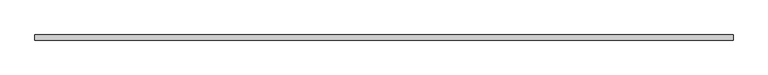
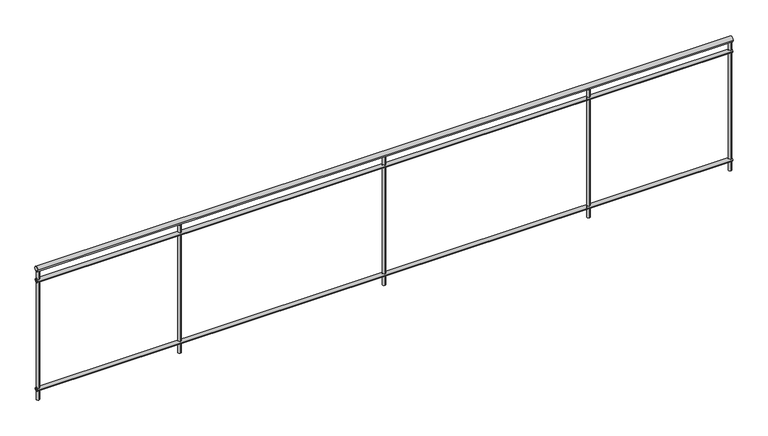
"""IFC4 building model written with IfcOpenShell, lengths in millimetres: railing geometry, バルコニー手摺."""

from ifc_helpers import new_model, si_unit, point, frame, frame_2d, origin, place, context, project, spatial, circle_curve, trimmed, segment, composite_curve, outline, extrude, source, transform, mapped, element, save


def railing_c805cc73(model_context):
    return source(origin(), model_context, "Body", "SweptSolid", [
        extrude(outline(composite_curve([segment(trimmed(circle_curve(frame_2d((10035.2598658, 7980.0)), 20.0), [point((10055.2598658, 7980.0))], [point((10015.2598658, 7980.0))], False, "CARTESIAN"), True, "CONTINUOUS"), segment(trimmed(circle_curve(frame_2d((10035.2598658, 7980.0)), 20.0), [point((10015.2598658, 7980.0))], [point((10055.2598658, 7980.0))], False, "CARTESIAN"), True, "CONTINUOUS")], self_intersect=False)), frame((-3045.6194095, 0.0, 0.0), z_axis=(1.0, 0.0, 0.0), x_axis=(0.0, 1.0, 0.0)), (0.0, 0.0, 1.0), 5440.0),
        extrude(outline(composite_curve([segment(trimmed(circle_curve(frame_2d((10035.2598658, 7885.0)), 15.0), [point((10050.2598658, 7885.0))], [point((10020.2598658, 7885.0))], False, "CARTESIAN"), True, "CONTINUOUS"), segment(trimmed(circle_curve(frame_2d((10035.2598658, 7885.0)), 15.0), [point((10020.2598658, 7885.0))], [point((10050.2598658, 7885.0))], False, "CARTESIAN"), True, "CONTINUOUS")], self_intersect=False)), frame((-3045.6194095, 0.0, 0.0), z_axis=(1.0, 0.0, 0.0), x_axis=(0.0, 1.0, 0.0)), (0.0, 0.0, 1.0), 5440.0),
        extrude(outline(composite_curve([segment(trimmed(circle_curve(frame_2d((10035.2598658, 6985.0)), 15.0), [point((10050.2598658, 6985.0))], [point((10020.2598658, 6985.0))], False, "CARTESIAN"), True, "CONTINUOUS"), segment(trimmed(circle_curve(frame_2d((10035.2598658, 6985.0)), 15.0), [point((10020.2598658, 6985.0))], [point((10050.2598658, 6985.0))], False, "CARTESIAN"), True, "CONTINUOUS")], self_intersect=False)), frame((-3045.6194095, 0.0, 0.0), z_axis=(1.0, 0.0, 0.0), x_axis=(0.0, 1.0, 0.0)), (0.0, 0.0, 1.0), 5440.0),
        extrude(outline(composite_curve([segment(trimmed(circle_curve(frame_2d((-1925.6194095, 10035.2598658)), 12.5), [point((-1925.6194095, 10047.7598658))], [point((-1925.6194095, 10022.7598658))], False, "CARTESIAN"), True, "CONTINUOUS"), segment(trimmed(circle_curve(frame_2d((-1925.6194095, 10035.2598658)), 12.5), [point((-1925.6194095, 10022.7598658))], [point((-1925.6194095, 10047.7598658))], False, "CARTESIAN"), True, "CONTINUOUS")], self_intersect=False)), frame((0.0, 0.0, 6900.0), z_axis=(0.0, 0.0, 1.0), x_axis=(1.0, 0.0, 0.0)), (0.0, 0.0, 1.0), 1060.0),
        extrude(outline(composite_curve([segment(trimmed(circle_curve(frame_2d((-325.6194095, 10035.2598658)), 12.5), [point((-325.6194095, 10047.7598658))], [point((-325.6194095, 10022.7598658))], False, "CARTESIAN"), True, "CONTINUOUS"), segment(trimmed(circle_curve(frame_2d((-325.6194095, 10035.2598658)), 12.5), [point((-325.6194095, 10022.7598658))], [point((-325.6194095, 10047.7598658))], False, "CARTESIAN"), True, "CONTINUOUS")], self_intersect=False)), frame((0.0, 0.0, 6900.0), z_axis=(0.0, 0.0, 1.0), x_axis=(1.0, 0.0, 0.0)), (0.0, 0.0, 1.0), 1060.0),
        extrude(outline(composite_curve([segment(trimmed(circle_curve(frame_2d((1274.3805905, 10035.2598658)), 12.5), [point((1274.3805905, 10047.7598658))], [point((1274.3805905, 10022.7598658))], False, "CARTESIAN"), True, "CONTINUOUS"), segment(trimmed(circle_curve(frame_2d((1274.3805905, 10035.2598658)), 12.5), [point((1274.3805905, 10022.7598658))], [point((1274.3805905, 10047.7598658))], False, "CARTESIAN"), True, "CONTINUOUS")], self_intersect=False)), frame((0.0, 0.0, 6900.0), z_axis=(0.0, 0.0, 1.0), x_axis=(1.0, 0.0, 0.0)), (0.0, 0.0, 1.0), 1060.0),
        extrude(outline(composite_curve([segment(trimmed(circle_curve(frame_2d((-3033.4194095, 10035.2598658)), 12.5), [point((-3033.4194095, 10047.7598658))], [point((-3033.4194095, 10022.7598658))], False, "CARTESIAN"), True, "CONTINUOUS"), segment(trimmed(circle_curve(frame_2d((-3033.4194095, 10035.2598658)), 12.5), [point((-3033.4194095, 10022.7598658))], [point((-3033.4194095, 10047.7598658))], False, "CARTESIAN"), True, "CONTINUOUS")], self_intersect=False)), frame((0.0, 0.0, 6900.0), z_axis=(0.0, 0.0, 1.0), x_axis=(1.0, 0.0, 0.0)), (0.0, 0.0, 1.0), 1060.0),
        extrude(outline(composite_curve([segment(trimmed(circle_curve(frame_2d((2382.1805905, 10035.2598658)), 12.5), [point((2382.1805905, 10047.7598658))], [point((2382.1805905, 10022.7598658))], False, "CARTESIAN"), True, "CONTINUOUS"), segment(trimmed(circle_curve(frame_2d((2382.1805905, 10035.2598658)), 12.5), [point((2382.1805905, 10022.7598658))], [point((2382.1805905, 10047.7598658))], False, "CARTESIAN"), True, "CONTINUOUS")], self_intersect=False)), frame((0.0, 0.0, 6900.0), z_axis=(0.0, 0.0, 1.0), x_axis=(1.0, 0.0, 0.0)), (0.0, 0.0, 1.0), 1060.0),
    ])


if __name__ == "__main__":
    model = new_model("IFC4")
    model_context = context("Model", 3, world=origin())
    ifc_project = project(units=[si_unit("LENGTHUNIT", "METRE", prefix="MILLI")], contexts=[model_context])
    site = spatial("IfcSite", under=ifc_project)
    building = spatial("IfcBuilding", under=site)
    placement = place(None, origin())
    railing_shape = railing_c805cc73(model_context)
    element("IfcRailing", 1, ObjectType="バルコニー手摺", at=placement, inside=building, context=model_context, shape_type="MappedRepresentation", body=[
        mapped(railing_shape, transform((0.0, 0.0, 0.0), x_axis=(1.0, 0.0, 0.0), y_axis=(0.0, 1.0, 0.0), z_axis=(0.0, 0.0, 1.0))),
    ])
    save(model, "model.ifc")
